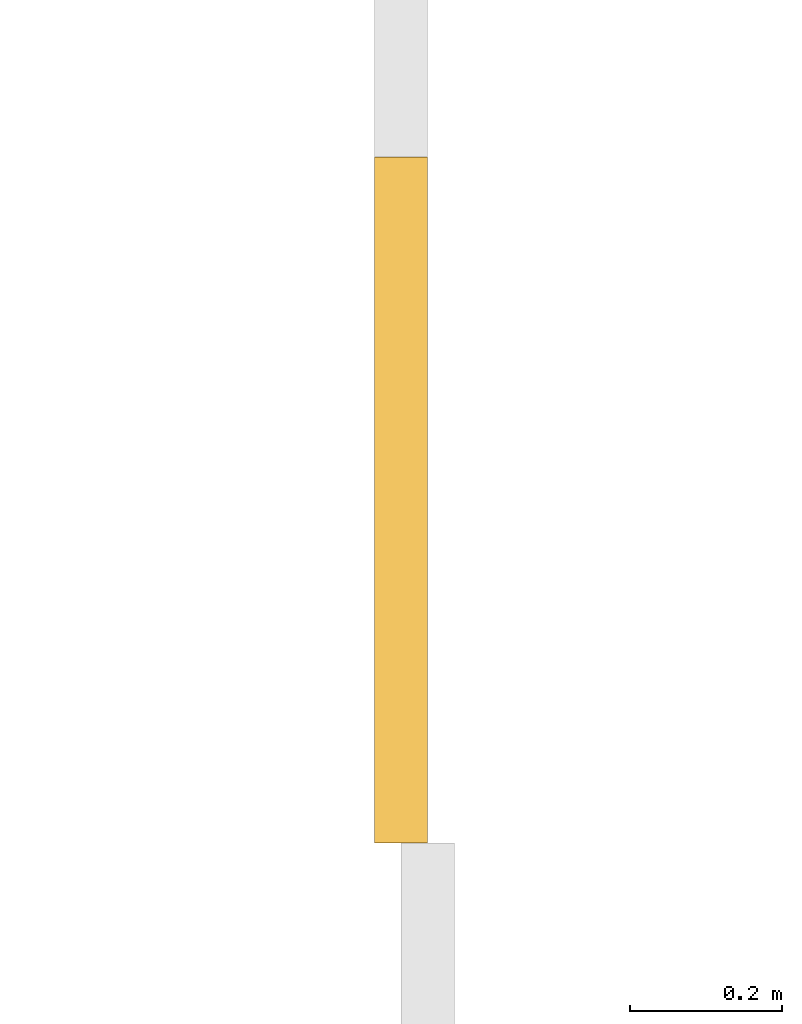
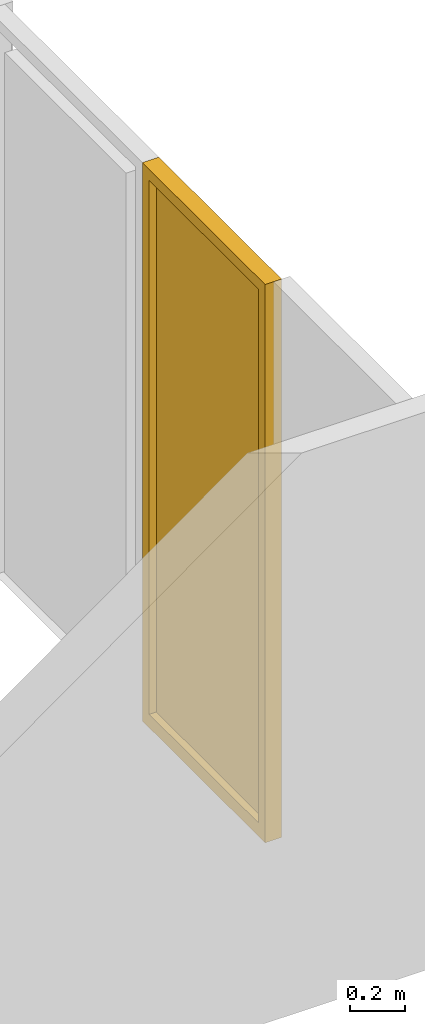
# One storey, part 30 of 51: 1 window.
"""IFC2X3 building model written with IfcOpenShell, lengths in metres."""

from ifc_helpers import new_model, entity, si_unit, converted_unit, derived_unit, direction, frame, origin, origin_2d_with_axis, place, context, subcontext, project, spatial, polyline, rectangle, outline, extrude, source, transform, mapped, material, material_list, type_object, type_shapes, element, save


model = new_model("IFC2X3")

# Units and contexts
model_context = context("Model", 3, precision=1e-05, world=origin(), true_north=direction((6.123031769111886e-17, 1.0)))
body_context = subcontext(model_context, "Body", "Model", "MODEL_VIEW")
ifc_project = project(units=[si_unit("LENGTHUNIT", "METRE"), si_unit("AREAUNIT", "SQUARE_METRE"), si_unit("VOLUMEUNIT", "CUBIC_METRE"), converted_unit("PLANEANGLEUNIT", "DEGREE", entity("IfcRatioMeasure", 0.017453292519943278), si_unit("PLANEANGLEUNIT", "RADIAN"), dimensions=[0, 0, 0, 0, 0, 0, 0]), si_unit("MASSUNIT", "GRAM", prefix="KILO"), derived_unit("MASSDENSITYUNIT", [(si_unit("MASSUNIT", "GRAM", prefix="KILO"), 1), (si_unit("LENGTHUNIT", "METRE"), -3)]), derived_unit("MOMENTOFINERTIAUNIT", [(si_unit("LENGTHUNIT", "METRE"), 4)]), si_unit("TIMEUNIT", "SECOND"), si_unit("FREQUENCYUNIT", "HERTZ"), si_unit("THERMODYNAMICTEMPERATUREUNIT", "DEGREE_CELSIUS"), derived_unit("THERMALTRANSMITTANCEUNIT", [(si_unit("MASSUNIT", "GRAM", prefix="KILO"), 1), (si_unit("THERMODYNAMICTEMPERATUREUNIT", "KELVIN"), -1), (si_unit("TIMEUNIT", "SECOND"), -3)]), derived_unit("THERMALCONDUCTANCEUNIT", [(si_unit("MASSUNIT", "GRAM", prefix="KILO"), 1), (si_unit("LENGTHUNIT", "METRE"), 1), (si_unit("THERMODYNAMICTEMPERATUREUNIT", "KELVIN"), -1), (si_unit("TIMEUNIT", "SECOND"), -3)]), derived_unit("VOLUMETRICFLOWRATEUNIT", [(si_unit("LENGTHUNIT", "METRE"), 3), (si_unit("TIMEUNIT", "SECOND"), -1)]), derived_unit("MASSFLOWRATEUNIT", [(si_unit("MASSUNIT", "GRAM", prefix="KILO"), 1), (si_unit("TIMEUNIT", "SECOND"), -1)]), derived_unit("ROTATIONALFREQUENCYUNIT", [(si_unit("TIMEUNIT", "SECOND"), -1)]), si_unit("ELECTRICCURRENTUNIT", "AMPERE"), si_unit("ELECTRICVOLTAGEUNIT", "VOLT"), si_unit("POWERUNIT", "WATT"), si_unit("FORCEUNIT", "NEWTON", prefix="KILO"), si_unit("ILLUMINANCEUNIT", "LUX"), si_unit("LUMINOUSFLUXUNIT", "LUMEN"), si_unit("LUMINOUSINTENSITYUNIT", "CANDELA"), derived_unit("USERDEFINED", [(si_unit("MASSUNIT", "GRAM", prefix="KILO"), -1), (si_unit("LENGTHUNIT", "METRE"), -2), (si_unit("TIMEUNIT", "SECOND"), 3), (si_unit("LUMINOUSFLUXUNIT", "LUMEN"), 1)]), derived_unit("USERDEFINED", [(si_unit("MASSUNIT", "GRAM", prefix="KILO"), 1), (si_unit("LENGTHUNIT", "METRE"), 3), (si_unit("TIMEUNIT", "SECOND"), -3), (si_unit("ELECTRICCURRENTUNIT", "AMPERE"), -2)]), derived_unit("USERDEFINED", [(si_unit("LENGTHUNIT", "METRE"), 2), (si_unit("TIMEUNIT", "SECOND"), -2)]), derived_unit("SOUNDPOWERUNIT", [(si_unit("MASSUNIT", "GRAM", prefix="KILO"), 1), (si_unit("LENGTHUNIT", "METRE"), 2), (si_unit("TIMEUNIT", "SECOND"), -3)]), derived_unit("SOUNDPRESSUREUNIT", [(si_unit("MASSUNIT", "GRAM", prefix="KILO"), 1), (si_unit("LENGTHUNIT", "METRE"), -1), (si_unit("TIMEUNIT", "SECOND"), -2)]), derived_unit("LINEARVELOCITYUNIT", [(si_unit("LENGTHUNIT", "METRE"), 1), (si_unit("TIMEUNIT", "SECOND"), -1)]), si_unit("PRESSUREUNIT", "PASCAL"), derived_unit("USERDEFINED", [(si_unit("LENGTHUNIT", "METRE"), -2), (si_unit("MASSUNIT", "GRAM", prefix="KILO"), 1), (si_unit("TIMEUNIT", "SECOND"), -2)]), derived_unit("LINEARFORCEUNIT", [(si_unit("MASSUNIT", "GRAM", prefix="KILO"), 1), (si_unit("LENGTHUNIT", "METRE"), 1), (si_unit("TIMEUNIT", "SECOND"), -2), (si_unit("LENGTHUNIT", "METRE"), -1)]), derived_unit("PLANARFORCEUNIT", [(si_unit("MASSUNIT", "GRAM", prefix="KILO"), 1), (si_unit("LENGTHUNIT", "METRE"), 1), (si_unit("TIMEUNIT", "SECOND"), -2), (si_unit("LENGTHUNIT", "METRE"), -2)]), derived_unit("SPECIFICHEATCAPACITYUNIT", [(si_unit("LENGTHUNIT", "METRE"), 2), (si_unit("TIMEUNIT", "SECOND"), -2), (si_unit("THERMODYNAMICTEMPERATUREUNIT", "KELVIN"), -1)]), derived_unit("VAPORPERMEABILITYUNIT", [(si_unit("TIMEUNIT", "SECOND"), 1), (si_unit("LENGTHUNIT", "METRE"), -1)]), derived_unit("DYNAMICVISCOSITYUNIT", [(si_unit("MASSUNIT", "GRAM", prefix="KILO"), 1), (si_unit("LENGTHUNIT", "METRE"), -1), (si_unit("TIMEUNIT", "SECOND"), -1)]), derived_unit("THERMALEXPANSIONCOEFFICIENTUNIT", [(si_unit("THERMODYNAMICTEMPERATUREUNIT", "KELVIN"), -1)])], contexts=[model_context])

# Site, building, storey
site_placement = place(None, origin())
site = spatial("IfcSite", under=ifc_project, at=site_placement, Name="Default", CompositionType="ELEMENT")
building_placement = place(site_placement, origin())
building = spatial("IfcBuilding", under=site, at=building_placement, CompositionType="ELEMENT")
storey_placement = place(building_placement, frame((0.0, 0.0, 3.06)))
storey = spatial("IfcBuildingStorey", under=building, at=storey_placement, Name="ÉTAGE", CompositionType="ELEMENT", Elevation=3.06)

# Window
ifc_material_1 = material(Name="Transp. - Verre clair (rapide)")
ifc_material_2 = material(Name="Peinture - Anthracite")
ifc_material_list = material_list([ifc_material_1, ifc_material_2])
window_style = type_object("IfcWindowStyle", Name="Fen-003", ConstructionType="NOTDEFINED", OperationType="NOTDEFINED", ParameterTakesPrecedence=False, Sizeable=False, material=ifc_material_list)
shared_shape = source(origin(), body_context, "Body", "SweptSolid", [
    extrude(rectangle(XDim=0.010000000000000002, YDim=0.8, at=origin_2d_with_axis()), frame((0.44999999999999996, -0.1057, 0.06009999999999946), z_axis=(0.0, 0.0, 1.0), x_axis=(0.0, -1.0, 0.0)), (0.0, 0.0, 1.0), 2.3899000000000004),
    extrude(outline(polyline([(-0.44999999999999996, -1.2499999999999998), (0.44999999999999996, -1.2499999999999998), (0.44999999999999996, 1.2499999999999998), (-0.44999999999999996, 1.2499999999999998), (-0.44999999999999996, -1.2499999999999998)]), holes=[polyline([(0.4000000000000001, 1.2000000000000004), (0.4000000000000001, -1.19), (-0.4, -1.19), (-0.4, 1.2000000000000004), (0.4000000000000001, 1.2000000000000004)])]), frame((0.44999999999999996, -0.1407, 1.2499999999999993), z_axis=(0.0, 1.0, 0.0), x_axis=(-1.0, 0.0, 0.0)), (0.0, 0.0, 1.0), 0.07),
])
type_shapes(window_style, [shared_shape])
window_placement = place(storey_placement, frame((347.026452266, 12.8072095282, 1.2099999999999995), z_axis=(0.0, 0.0, 1.0), x_axis=(0.0, -1.0, 0.0)))
element("IfcWindow", 1, at=window_placement, inside=storey, type_object=window_style, material=ifc_material_list, Name="Fen-003 803318:Fen-003 803318", ObjectType="Fen-003 803318:Fen-003 803318", OverallHeight=2.5, OverallWidth=0.9, context=body_context, shape_type="MappedRepresentation", body=[
    mapped(shared_shape, transform((0.0, 0.0, 0.0), scale=1.0)),
])

save(model, "model.ifc")
